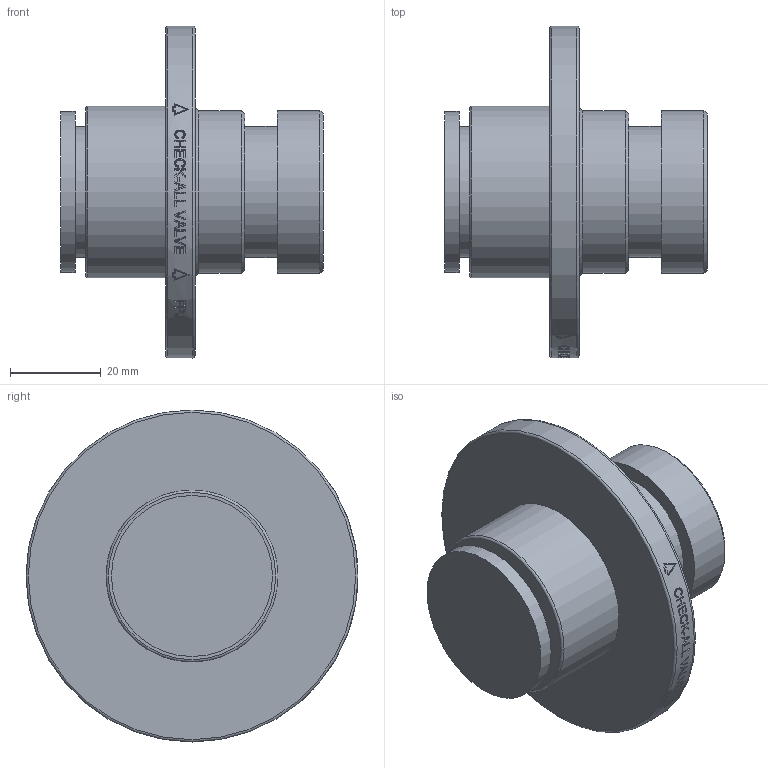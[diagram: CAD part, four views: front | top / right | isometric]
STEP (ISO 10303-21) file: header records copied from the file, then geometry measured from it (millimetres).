
FILE_DESCRIPTION( ( 'Unknown' ), '1' );
FILE_NAME( 'Y:/ENGR/3D Solid Edge Models/FP/FP STEP/FPJ.stp', 'Unknown', ( 'Unknown' ), ( 'Unknown' ), 'PSStep 14.0', 'Unknown', ' ' );
FILE_SCHEMA( ( 'AUTOMOTIVE_DESIGN { 1 0 10303 214 1 1 1 1 }' ) );
Length unit declared in the file: millimetre
Products named in the file (1): 1
Bounding box: 57.81 x 73.06 x 73.06 mm (x, y, z)
Volume: 77475.2 mm3; surface area: 16698.4 mm2
Topology: 1 solids, 1 shells, 207 faces, 519 edges, 344 vertices
Faces by surface type: plane 124, bspline 46, cylinder 31, torus 3, cone 3
Full cylindrical faces by diameter (mm): 28.829 x2, 35.433 x1, 35.839 x2, 37.846 x1, 73.025 x1
Entity records: 9427 total; most frequent: CARTESIAN_POINT 3923, ORIENTED_EDGE 1012, EDGE_CURVE 506, B_SPLINE_CURVE_WITH_KNOTS 486, DIRECTION 364, VERTEX_POINT 344, EDGE_LOOP 250, FACE_OUTER_BOUND 217
